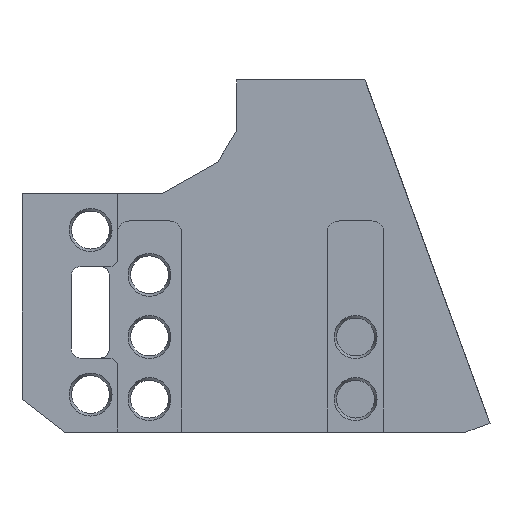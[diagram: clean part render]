
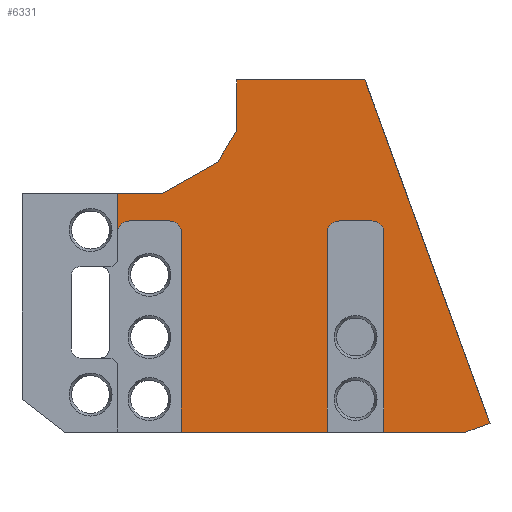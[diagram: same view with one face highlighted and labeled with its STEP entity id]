
A CAD part, left-side view. The second image highlights one B-rep face of the part: STEP entity #6331.
In plain terms, the highlighted planar face has unit normal (-1, 0, 0).
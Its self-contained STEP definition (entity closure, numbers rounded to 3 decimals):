
#691=PLANE('',#6728);
#911=FACE_OUTER_BOUND('',#1299,.T.);
#1299=EDGE_LOOP('',(#4921,#4922,#4923,#4924,#4925,#4926,#4927,#4928,#4929,
#4930,#4931,#4932,#4933,#4934,#4935,#4936,#4937,#4938,#4939,#4940));
#1580=LINE('',#8252,#2013);
#1584=LINE('',#8261,#2017);
#1590=LINE('',#8557,#2023);
#1597=LINE('',#8572,#2030);
#1641=LINE('',#9036,#2074);
#1698=LINE('',#11526,#2131);
#1705=LINE('',#11545,#2138);
#1713=LINE('',#11568,#2146);
#1715=LINE('',#11571,#2148);
#1738=LINE('',#12124,#2171);
#1739=LINE('',#12125,#2172);
#1740=LINE('',#12127,#2173);
#1741=LINE('',#12128,#2174);
#1742=LINE('',#12129,#2175);
#1743=LINE('',#12130,#2176);
#2013=VECTOR('',#7001,10.);
#2017=VECTOR('',#7011,10.);
#2023=VECTOR('',#7035,10.);
#2030=VECTOR('',#7044,10.);
#2074=VECTOR('',#7156,10.);
#2131=VECTOR('',#7337,10.);
#2138=VECTOR('',#7352,10.);
#2146=VECTOR('',#7374,10.);
#2148=VECTOR('',#7378,10.);
#2171=VECTOR('',#7453,10.);
#2172=VECTOR('',#7454,10.);
#2173=VECTOR('',#7455,10.);
#2174=VECTOR('',#7456,10.);
#2175=VECTOR('',#7457,10.);
#2176=VECTOR('',#7458,10.);
#2435=CIRCLE('',#6575,1.3);
#2440=CIRCLE('',#6583,1.3);
#2445=CIRCLE('',#6592,50.);
#2492=CIRCLE('',#6696,1.3);
#2494=CIRCLE('',#6699,1.3);
#2600=VERTEX_POINT('',#8195);
#2601=VERTEX_POINT('',#8197);
#2617=VERTEX_POINT('',#8251);
#2618=VERTEX_POINT('',#8255);
#2619=VERTEX_POINT('',#8259);
#2670=VERTEX_POINT('',#8546);
#2672=VERTEX_POINT('',#8550);
#2674=VERTEX_POINT('',#8555);
#2680=VERTEX_POINT('',#8569);
#2681=VERTEX_POINT('',#8571);
#2758=VERTEX_POINT('',#9034);
#2868=VERTEX_POINT('',#11524);
#2869=VERTEX_POINT('',#11525);
#2876=VERTEX_POINT('',#11543);
#2877=VERTEX_POINT('',#11544);
#2880=VERTEX_POINT('',#11552);
#2882=VERTEX_POINT('',#11558);
#2885=VERTEX_POINT('',#11566);
#2907=VERTEX_POINT('',#12123);
#2908=VERTEX_POINT('',#12126);
#3217=EDGE_CURVE('',#2600,#2601,#2435,.T.);
#3235=EDGE_CURVE('',#2617,#2601,#1580,.T.);
#3237=EDGE_CURVE('',#2617,#2618,#2440,.T.);
#3240=EDGE_CURVE('',#2600,#2619,#1584,.T.);
#3293=EDGE_CURVE('',#2670,#2672,#2445,.T.);
#3295=EDGE_CURVE('',#2672,#2674,#1590,.T.);
#3302=EDGE_CURVE('',#2681,#2680,#1597,.T.);
#3404=EDGE_CURVE('',#2680,#2758,#1641,.T.);
#3598=EDGE_CURVE('',#2868,#2869,#1698,.T.);
#3607=EDGE_CURVE('',#2876,#2877,#1705,.T.);
#3611=EDGE_CURVE('',#2880,#2876,#2492,.T.);
#3614=EDGE_CURVE('',#2877,#2882,#2494,.T.);
#3619=EDGE_CURVE('',#2758,#2885,#1713,.T.);
#3621=EDGE_CURVE('',#2885,#2868,#1715,.T.);
#3659=EDGE_CURVE('',#2907,#2619,#1738,.T.);
#3660=EDGE_CURVE('',#2907,#2880,#1739,.T.);
#3661=EDGE_CURVE('',#2882,#2908,#1740,.T.);
#3662=EDGE_CURVE('',#2670,#2908,#1741,.T.);
#3663=EDGE_CURVE('',#2674,#2681,#1742,.T.);
#3664=EDGE_CURVE('',#2869,#2618,#1743,.T.);
#4921=ORIENTED_EDGE('',*,*,#3659,.F.);
#4922=ORIENTED_EDGE('',*,*,#3660,.T.);
#4923=ORIENTED_EDGE('',*,*,#3611,.T.);
#4924=ORIENTED_EDGE('',*,*,#3607,.T.);
#4925=ORIENTED_EDGE('',*,*,#3614,.T.);
#4926=ORIENTED_EDGE('',*,*,#3661,.T.);
#4927=ORIENTED_EDGE('',*,*,#3662,.F.);
#4928=ORIENTED_EDGE('',*,*,#3293,.T.);
#4929=ORIENTED_EDGE('',*,*,#3295,.T.);
#4930=ORIENTED_EDGE('',*,*,#3663,.T.);
#4931=ORIENTED_EDGE('',*,*,#3302,.T.);
#4932=ORIENTED_EDGE('',*,*,#3404,.T.);
#4933=ORIENTED_EDGE('',*,*,#3619,.T.);
#4934=ORIENTED_EDGE('',*,*,#3621,.T.);
#4935=ORIENTED_EDGE('',*,*,#3598,.T.);
#4936=ORIENTED_EDGE('',*,*,#3664,.T.);
#4937=ORIENTED_EDGE('',*,*,#3237,.F.);
#4938=ORIENTED_EDGE('',*,*,#3235,.T.);
#4939=ORIENTED_EDGE('',*,*,#3217,.F.);
#4940=ORIENTED_EDGE('',*,*,#3240,.T.);
#6331=ADVANCED_FACE('',(#911),#691,.T.);
#6575=AXIS2_PLACEMENT_3D('',#8198,#6976,#6977);
#6583=AXIS2_PLACEMENT_3D('',#8256,#7005,#7006);
#6592=AXIS2_PLACEMENT_3D('',#8552,#7030,#7031);
#6696=AXIS2_PLACEMENT_3D('',#11553,#7358,#7359);
#6699=AXIS2_PLACEMENT_3D('',#11559,#7365,#7366);
#6728=AXIS2_PLACEMENT_3D('',#12122,#7451,#7452);
#6976=DIRECTION('center_axis',(-1.,0.,0.));
#6977=DIRECTION('ref_axis',(0.,-0.707,0.707));
#7001=DIRECTION('',(0.,-1.,0.));
#7005=DIRECTION('center_axis',(-1.,0.,0.));
#7006=DIRECTION('ref_axis',(0.,0.707,0.707));
#7011=DIRECTION('',(0.,0.,-1.));
#7030=DIRECTION('center_axis',(-1.,0.,0.));
#7031=DIRECTION('ref_axis',(0.,0.,-1.));
#7035=DIRECTION('',(0.,-0.94,0.342));
#7044=DIRECTION('',(0.,1.,0.));
#7156=DIRECTION('',(0.,0.,-1.));
#7337=DIRECTION('',(0.,1.,0.));
#7352=DIRECTION('',(0.,-1.,0.));
#7358=DIRECTION('center_axis',(1.,0.,0.));
#7359=DIRECTION('ref_axis',(0.,0.,1.));
#7365=DIRECTION('center_axis',(1.,0.,0.));
#7366=DIRECTION('ref_axis',(0.,-1.,0.));
#7374=DIRECTION('',(0.,0.516,-0.856));
#7378=DIRECTION('',(0.,0.871,-0.492));
#7451=DIRECTION('center_axis',(-1.,0.,0.));
#7452=DIRECTION('ref_axis',(0.,1.,0.));
#7453=DIRECTION('',(0.,1.,0.));
#7454=DIRECTION('',(0.,0.,1.));
#7455=DIRECTION('',(0.,0.,-1.));
#7456=DIRECTION('',(0.,1.,0.));
#7457=DIRECTION('',(0.,0.342,0.94));
#7458=DIRECTION('',(0.,0.,-1.));
#8195=CARTESIAN_POINT('',(-40.,-22.45,20.15));
#8197=CARTESIAN_POINT('',(-40.,-21.15,21.45));
#8198=CARTESIAN_POINT('Origin',(-40.,-21.15,20.15));
#8251=CARTESIAN_POINT('',(-40.,-16.75,21.45));
#8252=CARTESIAN_POINT('',(-40.,-23.529,21.45));
#8255=CARTESIAN_POINT('',(-40.,-15.45,20.15));
#8256=CARTESIAN_POINT('Origin',(-40.,-16.75,20.15));
#8259=CARTESIAN_POINT('',(-40.,-22.45,-1.65));
#8261=CARTESIAN_POINT('',(-40.,-22.45,18.281));
#8546=CARTESIAN_POINT('',(-40.,-53.532,-1.65));
#8550=CARTESIAN_POINT('',(-40.,-55.328,-1.035));
#8552=CARTESIAN_POINT('Origin',(-40.,-38.227,45.95));
#8555=CARTESIAN_POINT('',(-40.,-56.214,-0.712));
#8557=CARTESIAN_POINT('',(-40.,-56.214,-0.712));
#8569=CARTESIAN_POINT('',(-40.,-28.5,36.875));
#8571=CARTESIAN_POINT('',(-40.,-42.533,36.875));
#8572=CARTESIAN_POINT('',(-40.,-42.533,36.875));
#9034=CARTESIAN_POINT('',(-40.,-28.5,31.344));
#9036=CARTESIAN_POINT('',(-40.,-28.5,36.875));
#11524=CARTESIAN_POINT('',(-40.,-20.343,24.45));
#11525=CARTESIAN_POINT('',(-40.,-15.45,24.45));
#11526=CARTESIAN_POINT('',(-40.,-15.15,24.45));
#11543=CARTESIAN_POINT('',(-40.,-39.7,21.45));
#11544=CARTESIAN_POINT('',(-40.,-43.3,21.45));
#11545=CARTESIAN_POINT('',(-40.,-35.154,21.45));
#11552=CARTESIAN_POINT('',(-40.,-38.4,20.15));
#11553=CARTESIAN_POINT('Origin',(-40.,-39.7,20.15));
#11558=CARTESIAN_POINT('',(-40.,-44.6,20.15));
#11559=CARTESIAN_POINT('Origin',(-40.,-43.3,20.15));
#11566=CARTESIAN_POINT('',(-40.,-26.409,27.876));
#11568=CARTESIAN_POINT('',(-40.,-28.5,31.344));
#11571=CARTESIAN_POINT('',(-40.,-26.409,27.876));
#12122=CARTESIAN_POINT('Origin',(-40.,-30.607,16.413));
#12123=CARTESIAN_POINT('',(-40.,-38.4,-1.65));
#12124=CARTESIAN_POINT('',(-40.,-30.607,-1.65));
#12125=CARTESIAN_POINT('',(-40.,-38.4,6.182));
#12126=CARTESIAN_POINT('',(-40.,-44.6,-1.65));
#12127=CARTESIAN_POINT('',(-40.,-44.6,18.281));
#12128=CARTESIAN_POINT('',(-40.,-30.607,-1.65));
#12129=CARTESIAN_POINT('',(-40.,-56.214,-0.712));
#12130=CARTESIAN_POINT('',(-40.,-15.45,6.181));
